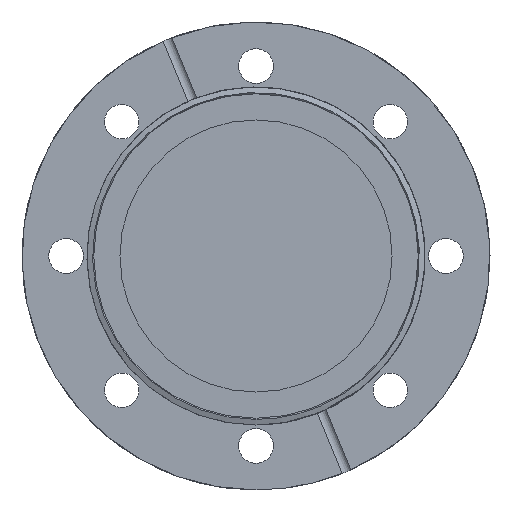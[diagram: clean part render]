
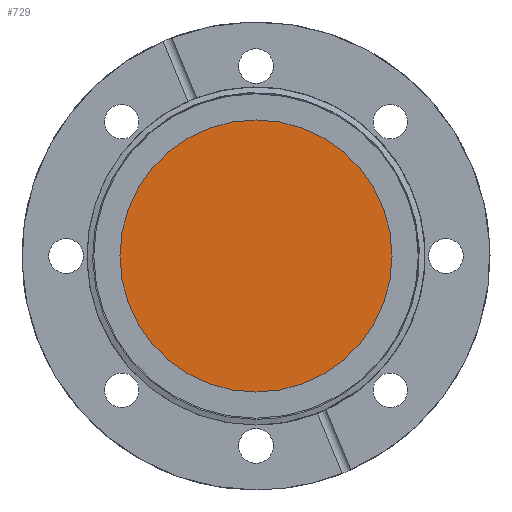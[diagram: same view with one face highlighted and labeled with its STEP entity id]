
A CAD part, left-side view. The second image highlights one B-rep face of the part: STEP entity #729.
In plain terms, the highlighted planar face has unit normal (-1, 0, 0).
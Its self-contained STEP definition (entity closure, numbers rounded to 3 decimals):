
#729 = ADVANCED_FACE( '', ( #1682 ), #1683, .F. );
#1682 = FACE_OUTER_BOUND( '', #2911, .T. );
#1683 = PLANE( '', #2912 );
#2911 = EDGE_LOOP( '', ( #4425 ) );
#2912 = AXIS2_PLACEMENT_3D( '', #4426, #4427, #4428 );
#4425 = ORIENTED_EDGE( '', *, *, #5443, .T. );
#4426 = CARTESIAN_POINT( '', ( 0., 0., 40. ) );
#4427 = DIRECTION( '', ( 1., 0., 0. ) );
#4428 = DIRECTION( '', ( 0., 0., -1. ) );
#5443 = EDGE_CURVE( '', #6112, #6112, #6113, .T. );
#6112 = VERTEX_POINT( '', #7075 );
#6113 = CIRCLE( '', #7076, 40. );
#7075 = CARTESIAN_POINT( '', ( 0., 0., 40. ) );
#7076 = AXIS2_PLACEMENT_3D( '', #8116, #8117, #8118 );
#8116 = CARTESIAN_POINT( '', ( 0., 0., 0. ) );
#8117 = DIRECTION( '', ( -1., 0., 0. ) );
#8118 = DIRECTION( '', ( 0., 0., 1. ) );
